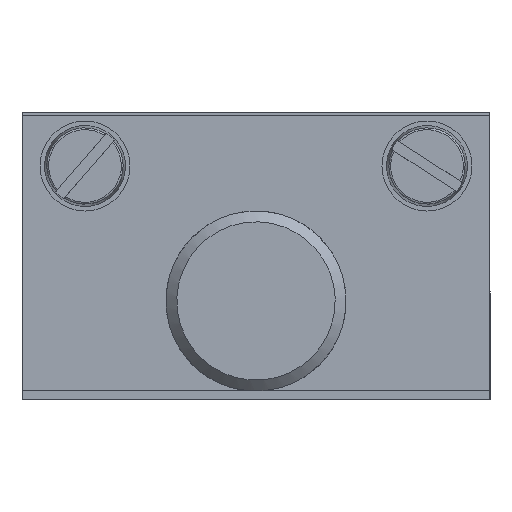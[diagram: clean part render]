
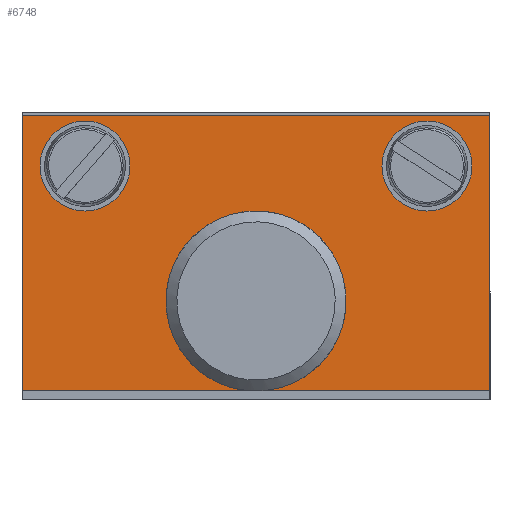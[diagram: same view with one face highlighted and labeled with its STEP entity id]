
A CAD part, left-side view. The second image highlights one B-rep face of the part: STEP entity #6748.
In plain terms, the highlighted planar face has unit normal (-1, 0, 0).
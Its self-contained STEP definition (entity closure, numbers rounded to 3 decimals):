
#6374=CARTESIAN_POINT('',(-6.,15.996,-4.344));
#6375=VERTEX_POINT('',#6374);
#6376=CARTESIAN_POINT('',(-6.,13.,-4.5));
#6377=DIRECTION('',(1.0,0.,0.));
#6378=DIRECTION('',(0.,-0.999,-0.052));
#6379=AXIS2_PLACEMENT_3D('',#6376,#6377,#6378);
#6380=CIRCLE('',#6379,3.0);
#6381=EDGE_CURVE('',#6375,#6375,#6380,.T.);
#6542=CARTESIAN_POINT('',(-6.,26.,-9.5));
#6543=VERTEX_POINT('',#6542);
#6558=CARTESIAN_POINT('',(-6.,0.,-9.5));
#6559=VERTEX_POINT('',#6558);
#6566=CARTESIAN_POINT('',(-6.,26.,-9.5));
#6567=DIRECTION('',(0.0,-1.0,0.0));
#6568=VECTOR('',#6567,26.0);
#6569=LINE('',#6566,#6568);
#6570=EDGE_CURVE('',#6543,#6559,#6569,.T.);
#6614=CARTESIAN_POINT('',(-6.,20.,3.));
#6615=VERTEX_POINT('',#6614);
#6616=CARTESIAN_POINT('',(-6.,22.5,3.));
#6617=DIRECTION('',(1.0,0.0,0.0));
#6618=DIRECTION('',(0.0,-1.0,0.0));
#6619=AXIS2_PLACEMENT_3D('',#6616,#6617,#6618);
#6620=CIRCLE('',#6619,2.5);
#6621=EDGE_CURVE('',#6615,#6615,#6620,.T.);
#6654=CARTESIAN_POINT('',(-6.,1.,3.));
#6655=VERTEX_POINT('',#6654);
#6656=CARTESIAN_POINT('',(-6.,3.5,3.));
#6657=DIRECTION('',(1.0,0.0,0.0));
#6658=DIRECTION('',(0.0,-1.0,0.0));
#6659=AXIS2_PLACEMENT_3D('',#6656,#6657,#6658);
#6660=CIRCLE('',#6659,2.5);
#6661=EDGE_CURVE('',#6655,#6655,#6660,.T.);
#6709=CARTESIAN_POINT('',(-6.,13.,0.65));
#6710=DIRECTION('',(1.0,0.0,0.0));
#6711=DIRECTION('',(0.0,1.0,0.0));
#6712=AXIS2_PLACEMENT_3D('',#6709,#6710,#6711);
#6713=PLANE('',#6712);
#6714=CARTESIAN_POINT('',(-6.,0.,5.8));
#6715=VERTEX_POINT('',#6714);
#6716=CARTESIAN_POINT('',(-6.,0.,5.8));
#6717=DIRECTION('',(0.0,0.0,-1.0));
#6718=VECTOR('',#6717,15.3);
#6719=LINE('',#6716,#6718);
#6720=EDGE_CURVE('',#6715,#6559,#6719,.T.);
#6721=ORIENTED_EDGE('',*,*,#6720,.F.);
#6722=CARTESIAN_POINT('',(-6.,26.,5.8));
#6723=VERTEX_POINT('',#6722);
#6724=CARTESIAN_POINT('',(-6.,26.,5.8));
#6725=DIRECTION('',(0.0,-1.0,0.0));
#6726=VECTOR('',#6725,26.0);
#6727=LINE('',#6724,#6726);
#6728=EDGE_CURVE('',#6723,#6715,#6727,.T.);
#6729=ORIENTED_EDGE('',*,*,#6728,.F.);
#6730=CARTESIAN_POINT('',(-6.,26.,5.8));
#6731=DIRECTION('',(0.0,0.0,-1.0));
#6732=VECTOR('',#6731,15.3);
#6733=LINE('',#6730,#6732);
#6734=EDGE_CURVE('',#6723,#6543,#6733,.T.);
#6735=ORIENTED_EDGE('',*,*,#6734,.T.);
#6736=ORIENTED_EDGE('',*,*,#6570,.T.);
#6737=EDGE_LOOP('',(#6721,#6729,#6735,#6736));
#6738=FACE_OUTER_BOUND('',#6737,.T.);
#6739=ORIENTED_EDGE('',*,*,#6381,.T.);
#6740=EDGE_LOOP('',(#6739));
#6741=FACE_BOUND('',#6740,.T.);
#6742=ORIENTED_EDGE('',*,*,#6621,.T.);
#6743=EDGE_LOOP('',(#6742));
#6744=FACE_BOUND('',#6743,.T.);
#6745=ORIENTED_EDGE('',*,*,#6661,.T.);
#6746=EDGE_LOOP('',(#6745));
#6747=FACE_BOUND('',#6746,.T.);
#6748=ADVANCED_FACE('',(#6738,#6741,#6744,#6747),#6713,.F.);
